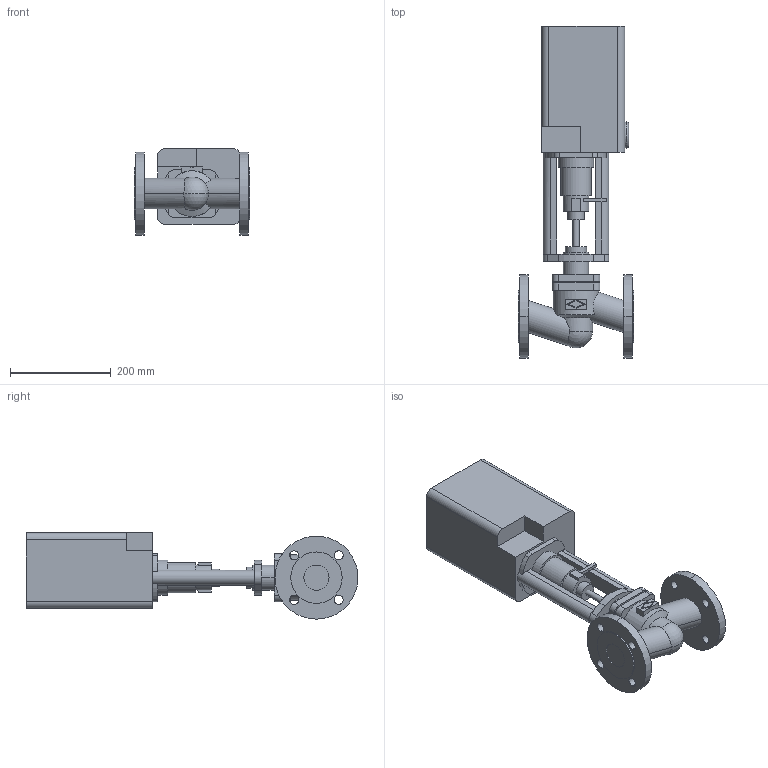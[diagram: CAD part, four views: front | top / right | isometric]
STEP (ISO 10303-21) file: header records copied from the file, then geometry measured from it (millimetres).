
FILE_DESCRIPTION(('OneSpaceDesigner STEP Export'),'2;1');
FILE_NAME('c000001179.stp','2005-02-16T12:07:17',(''),(''),'OneSpace Designer STEP processor (Jan. 2003) for AP203(Solid Model)','OneSpace Designer 12.01D 09-Jul-2004 (C) CoCreate Software GmbH','');
FILE_SCHEMA(('CONFIG_CONTROL_DESIGN'));
Length unit declared in the file: millimetre
Products named in the file (2): 1; 2
Bounding box: 230 x 659.5 x 171.5 mm (x, y, z)
Volume: 8810000.7 mm3; surface area: 475392.4 mm2
Topology: 2 solids, 2 shells, 174 faces, 440 edges, 291 vertices
Faces by surface type: plane 86, cylinder 82, cone 2, sphere 2, torus 2
Entity records: 5291 total; most frequent: CARTESIAN_POINT 1097, ORIENTED_EDGE 876, DIRECTION 778, EDGE_CURVE 438, VERTEX_POINT 291, AXIS2_PLACEMENT_3D 269, VECTOR 240, LINE 240
